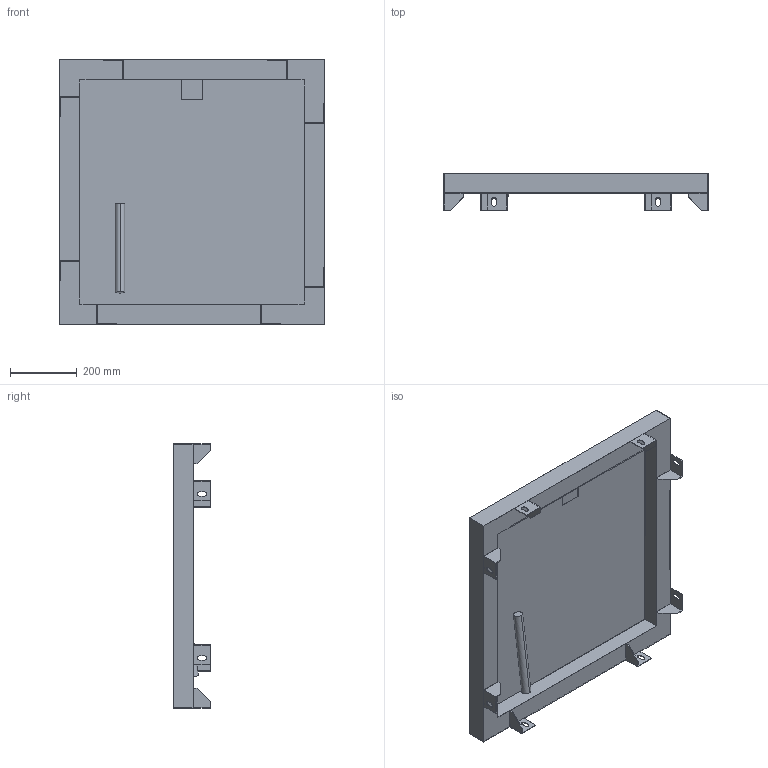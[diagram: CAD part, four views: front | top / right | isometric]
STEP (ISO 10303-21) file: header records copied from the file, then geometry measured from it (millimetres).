
FILE_DESCRIPTION((''),'2;1');
FILE_NAME('51323989','2019-02-21T',('slc'),('HUBER SE'),'PRO/ENGINEER BY PARAMETRIC TECHNOLOGY CORPORATION, 2017170','PRO/ENGINEER BY PARAMETRIC TECHNOLOGY CORPORATION, 2017170','');
FILE_SCHEMA(('AUTOMOTIVE_DESIGN { 1 0 10303 214 1 1 1 1 }'));
Length unit declared in the file: millimetre
Products named in the file (1): 51323989
Bounding box: 790 x 110 x 790 mm (x, y, z)
Volume: 2579057.6 mm3; surface area: 2462399.8 mm2
Topology: 4 solids, 4 shells, 139 faces, 382 edges, 254 vertices
Faces by surface type: plane 115, cylinder 24
Entity records: 4994 total; most frequent: CARTESIAN_POINT 786, ORIENTED_EDGE 764, DIRECTION 721, EDGE_CURVE 382, VECTOR 334, LINE 334, VERTEX_POINT 254, AXIS2_PLACEMENT_3D 192
